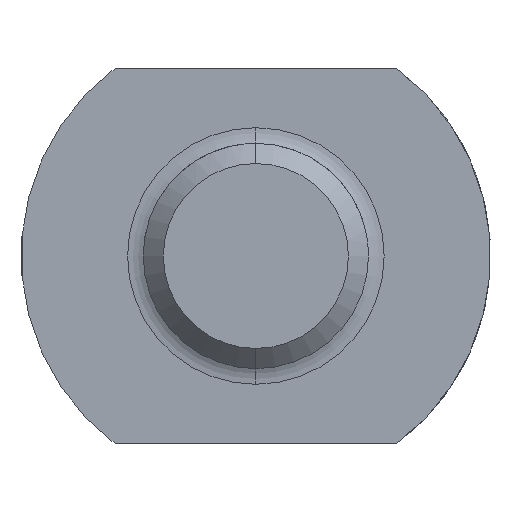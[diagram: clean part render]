
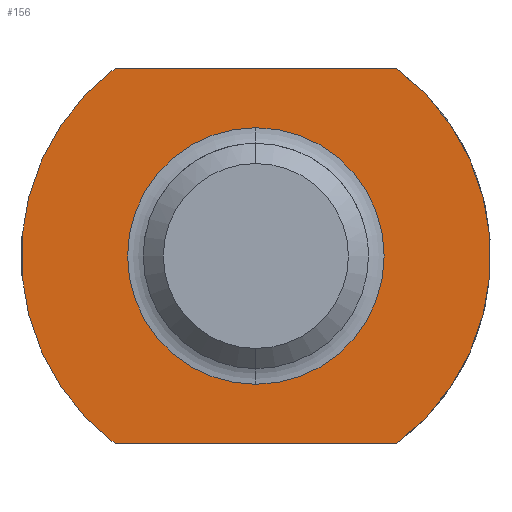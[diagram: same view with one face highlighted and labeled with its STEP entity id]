
A CAD part, left-side view. The second image highlights one B-rep face of the part: STEP entity #156.
In plain terms, the highlighted planar face has unit normal (-1, 0, 0).
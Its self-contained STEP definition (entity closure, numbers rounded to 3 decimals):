
#57=CARTESIAN_POINT('Line Origine',(0.,0.,-10.)) ;
#61=CARTESIAN_POINT('Vertex',(0.,-7.5,-10.)) ;
#63=CARTESIAN_POINT('Vertex',(0.,7.5,-10.)) ;
#92=CARTESIAN_POINT('Axis2P3D Location',(0.,6.833,0.)) ;
#97=CARTESIAN_POINT('Axis2P3D Location',(0.,0.,0.)) ;
#101=CARTESIAN_POINT('Vertex',(0.,7.5,10.)) ;
#104=CARTESIAN_POINT('Axis2P3D Location',(0.,0.,0.)) ;
#108=CARTESIAN_POINT('Vertex',(0.,-7.5,10.)) ;
#111=CARTESIAN_POINT('Line Origine',(0.,0.,10.)) ;
#122=CARTESIAN_POINT('Axis2P3D Location',(0.,0.,0.)) ;
#126=CARTESIAN_POINT('Vertex',(0.,6.833,0.)) ;
#128=CARTESIAN_POINT('Vertex',(0.,0.,6.833)) ;
#131=CARTESIAN_POINT('Axis2P3D Location',(0.,0.,0.)) ;
#135=CARTESIAN_POINT('Vertex',(0.,-6.833,0.)) ;
#138=CARTESIAN_POINT('Axis2P3D Location',(0.,0.,0.)) ;
#142=CARTESIAN_POINT('Vertex',(0.,0.,-6.833)) ;
#145=CARTESIAN_POINT('Axis2P3D Location',(0.,0.,0.)) ;
#58=DIRECTION('Vector Direction',(0.,1.,0.)) ;
#93=DIRECTION('Axis2P3D Direction',(1.,0.,-0.)) ;
#94=DIRECTION('Axis2P3D XDirection',(-0.,0.,-1.)) ;
#98=DIRECTION('Axis2P3D Direction',(1.,0.,-0.)) ;
#105=DIRECTION('Axis2P3D Direction',(1.,0.,-0.)) ;
#112=DIRECTION('Vector Direction',(0.,-1.,0.)) ;
#123=DIRECTION('Axis2P3D Direction',(1.,0.,-0.)) ;
#132=DIRECTION('Axis2P3D Direction',(1.,0.,-0.)) ;
#139=DIRECTION('Axis2P3D Direction',(1.,0.,-0.)) ;
#146=DIRECTION('Axis2P3D Direction',(1.,0.,-0.)) ;
#95=AXIS2_PLACEMENT_3D('Plane Axis2P3D',#92,#93,#94) ;
#99=AXIS2_PLACEMENT_3D('Circle Axis2P3D',#97,#98,$) ;
#106=AXIS2_PLACEMENT_3D('Circle Axis2P3D',#104,#105,$) ;
#124=AXIS2_PLACEMENT_3D('Circle Axis2P3D',#122,#123,$) ;
#133=AXIS2_PLACEMENT_3D('Circle Axis2P3D',#131,#132,$) ;
#140=AXIS2_PLACEMENT_3D('Circle Axis2P3D',#138,#139,$) ;
#147=AXIS2_PLACEMENT_3D('Circle Axis2P3D',#145,#146,$) ;
#117=ORIENTED_EDGE('',*,*,#103,.F.) ;
#118=ORIENTED_EDGE('',*,*,#65,.F.) ;
#119=ORIENTED_EDGE('',*,*,#110,.F.) ;
#120=ORIENTED_EDGE('',*,*,#115,.F.) ;
#151=ORIENTED_EDGE('',*,*,#130,.T.) ;
#152=ORIENTED_EDGE('',*,*,#137,.T.) ;
#153=ORIENTED_EDGE('',*,*,#144,.T.) ;
#154=ORIENTED_EDGE('',*,*,#149,.T.) ;
#155=FACE_BOUND('',#150,.T.) ;
#59=VECTOR('Line Direction',#58,1.) ;
#113=VECTOR('Line Direction',#112,1.) ;
#156=ADVANCED_FACE('AGS3401M12',(#121,#155),#96,.F.) ;
#100=CIRCLE('generated circle',#99,12.5) ;
#107=CIRCLE('generated circle',#106,12.5) ;
#125=CIRCLE('generated circle',#124,6.833) ;
#134=CIRCLE('generated circle',#133,6.833) ;
#141=CIRCLE('generated circle',#140,6.833) ;
#148=CIRCLE('generated circle',#147,6.833) ;
#65=EDGE_CURVE('',#62,#64,#60,.T.) ;
#103=EDGE_CURVE('',#64,#102,#100,.T.) ;
#110=EDGE_CURVE('',#109,#62,#107,.T.) ;
#115=EDGE_CURVE('',#102,#109,#114,.T.) ;
#130=EDGE_CURVE('',#127,#129,#125,.T.) ;
#137=EDGE_CURVE('',#129,#136,#134,.T.) ;
#144=EDGE_CURVE('',#136,#143,#141,.T.) ;
#149=EDGE_CURVE('',#143,#127,#148,.T.) ;
#116=EDGE_LOOP('',(#117,#118,#119,#120)) ;
#150=EDGE_LOOP('',(#151,#152,#153,#154)) ;
#121=FACE_OUTER_BOUND('',#116,.T.) ;
#60=LINE('Line',#57,#59) ;
#114=LINE('Line',#111,#113) ;
#96=PLANE('Plane',#95) ;
#62=VERTEX_POINT('',#61) ;
#64=VERTEX_POINT('',#63) ;
#102=VERTEX_POINT('',#101) ;
#109=VERTEX_POINT('',#108) ;
#127=VERTEX_POINT('',#126) ;
#129=VERTEX_POINT('',#128) ;
#136=VERTEX_POINT('',#135) ;
#143=VERTEX_POINT('',#142) ;
